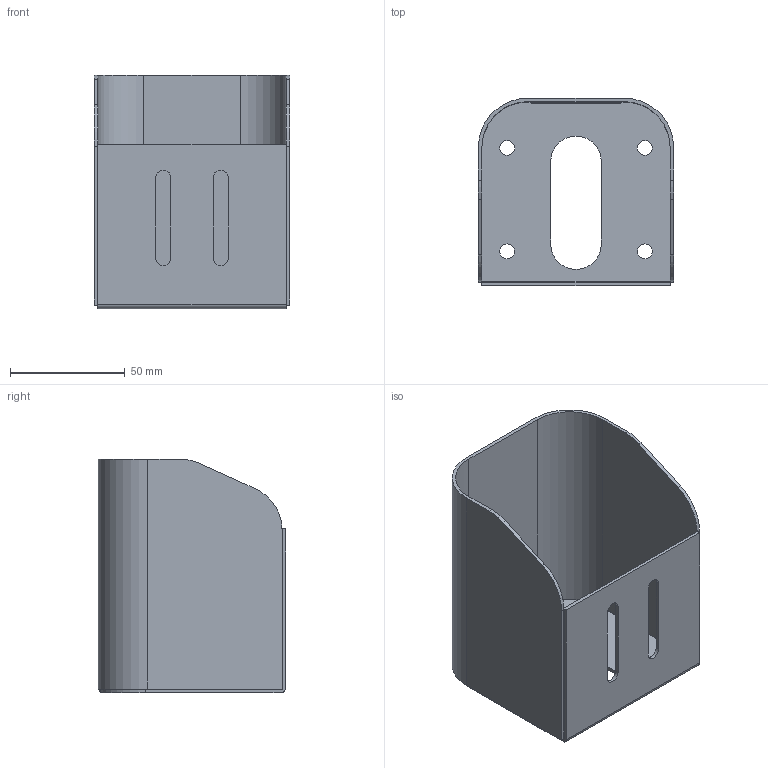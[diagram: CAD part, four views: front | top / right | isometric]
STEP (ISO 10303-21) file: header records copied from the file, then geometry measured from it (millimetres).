
FILE_DESCRIPTION( ( 'STEP AP203' ), ' ' );
FILE_NAME( 'p:/temp/worker_1854/636_3352/app_43_02016062311475505952492192d056f_000000_00_00_000000/format_1/E2M212.stp', '2016-06-23T09:47:55', ( '' ), ( '' ), ' ', 'PARTsolutions', ' ' );
FILE_SCHEMA( ( 'CONFIG_CONTROL_DESIGN' ) );
Length unit declared in the file: millimetre
Products named in the file (1): _E2M212
Bounding box: 85 x 81.5 x 101.6 mm (x, y, z)
Volume: 47956.2 mm3; surface area: 66015.2 mm2
Topology: 1 solids, 1 shells, 52 faces, 160 edges, 106 vertices
Faces by surface type: plane 28, cylinder 24
Full cylindrical faces by diameter (mm): 6.5 x4
Entity records: 1858 total; most frequent: CARTESIAN_POINT 315, DIRECTION 312, ORIENTED_EDGE 312, EDGE_CURVE 156, VERTEX_POINT 106, LINE 106, VECTOR 106, AXIS2_PLACEMENT_3D 103
